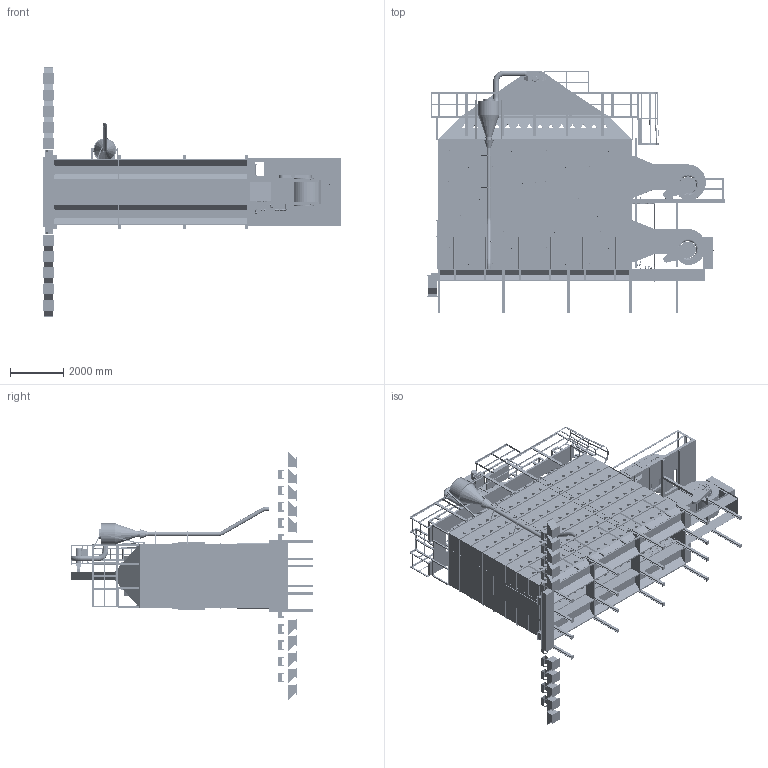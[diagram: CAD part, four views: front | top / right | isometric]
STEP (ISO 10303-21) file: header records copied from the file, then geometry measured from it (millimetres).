
FILE_DESCRIPTION(/* description */ ('PLAN AND ELEVATION VIEW FOR D24150 WITH ROOF & PRE-CLEANER'),/* implementation_level */ '2;1');
FILE_NAME(/* name */ 'C:\Engineering\Designs\Sales\Dryer\Workspaces\D24 All\D24150PC.stp',/* time_stamp */ '2025-01-07T09:33:21-06:00',/* author */ ('max.fleming'),/* organization */ (''),/* preprocessor_version */ 'ST-DEVELOPER v18.1',/* originating_system */ 'Autodesk Inventor 2022',/* authorisation */ '');
FILE_SCHEMA (('AUTOMOTIVE_DESIGN { 1 0 10303 214 3 1 1 }'));
Products named in the file (46): D24150PC; 24FT FRAME; 8FT MID FRAME; 8FT LHRH FRAME; 24FT ROOF GF; 8FTRoof GF MID; 8FTRoof GF LHRH; Tongue; Platform Support 1-T; 24FT BODY TIER; LH Body; MID Body; RH Body; LH Body_MIR2; MID Body_MIR1; RH Body_MIR2; Outside Splice; Trans & Blower; Screen Guard; Belt Shield; LP Fuel; Standard Size End Plenum Panels; Ladder 2' section; Platform; Stiffeners; 1 Tier Vertical Support; LP Inlet; 2401002; Liquid Propane Pipe; 6'' CROSS AUGER; 12'' CROSS DRAG; 24FT PRE CLEANER RH DIS; 24FT Pre Cleaner Grav Assy; Aspirator Blower CCW; Aspirator Blower; NEMA MOTOR 182T; 24FT FULL CATWALK W PRE CLEANER MOUNTS; Pre-Cleaner Cyclone; 24FT Aspirator 8in Pipe; Ladder Cage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
Assembly tree (108 placements, depth 4):
  D24150PC
    24FT FRAME
      8FT LHRH FRAME  x2
      8FT MID FRAME
    24FT ROOF GF
      8FTRoof GF LHRH  x2
      8FTRoof GF MID
    Tongue
    Platform Support 1-T
    24FT BODY TIER  x8
      LH Body
      MID Body
      RH Body
      LH Body_MIR2
      MID Body_MIR1
      RH Body_MIR2
      Outside Splice
    Trans & Blower  x2
    Screen Guard  x4
    Belt Shield  x2
    LP Fuel  x2
    Standard Size End Plenum Panels  x13
    Platform
    Stiffeners  x24
    1 Tier Vertical Support  x6
    LP Inlet
    2401002
    Liquid Propane Pipe  x4
    24FT PRE CLEANER RH DIS
      24FT Pre Cleaner Grav Assy
      Aspirator Blower CCW
        Aspirator Blower
        NEMA MOTOR 182T
      24FT FULL CATWALK W PRE CLEANER MOUNTS
      Pre-Cleaner Cyclone
      24FT Aspirator 8in Pipe
    Ladder Cage
    6IN ELBOW  x2
    6in PIPE 60L  x3
    6IN HANGER  x3
    6in PIPE SLEEVE 11L
    PIPE SUPPORT  x2
  Ladder 2' section
  6'' CROSS AUGER
  12'' CROSS DRAG
  Leg Kit 24 10T 4'
Bounding box: 11201.4 x 9156 x 9423.4 mm (x, y, z)
Volume: 69854819342.6 mm3; surface area: 1019893111.7 mm2
Topology: 513 solids, 671 shells, 39548 faces, 102905 edges, 65838 vertices
Faces by surface type: plane 19259, cylinder 11323, bspline 3781, cone 3398, torus 1603, sphere 184
Full cylindrical faces by diameter (mm): 1 x10, 1.651 x6, 1.753 x6, 1.778 x12, 2.019 x4, 2.108 x2, 2.286 x24, 2.489 x2, 2.54 x4, 3.091 x288, 3.175 x5, 3.251 x20, 3.306 x288, 3.522 x2, 3.658 x28, 3.8 x16, 4 x384, 4.039 x20, 4.166 x256, 4.191 x4, 4.229 x2, 4.267 x2, 4.369 x8, 4.445 x8, 4.701 x592, 4.762 x16, 4.851 x8, 4.928 x32, 5.283 x2, 5.527 x20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
Entity records: 812536 total; most frequent: CARTESIAN_POINT 349160, ORIENTED_EDGE 96872, DIRECTION 86729, EDGE_CURVE 48576, VERTEX_POINT 31099, AXIS2_PLACEMENT_3D 29154, LINE 28421, VECTOR 28421
